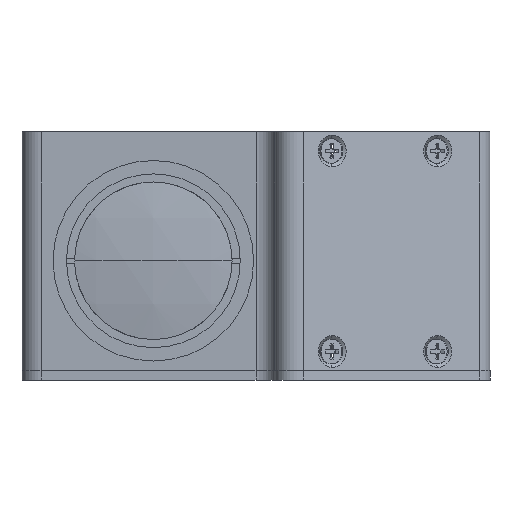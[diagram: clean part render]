
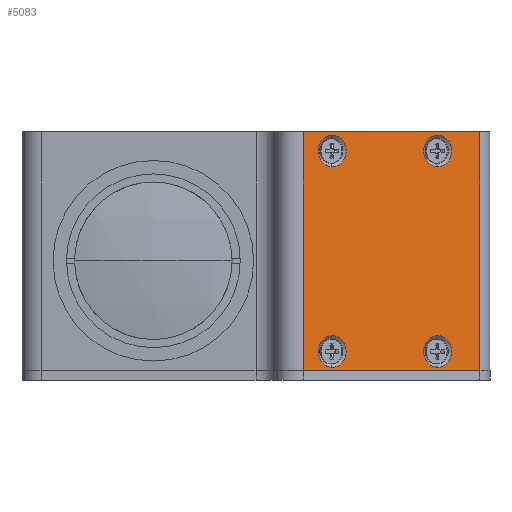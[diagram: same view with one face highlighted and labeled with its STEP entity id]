
A CAD part, left-side view. The second image highlights one B-rep face of the part: STEP entity #5083.
In plain terms, the highlighted planar face has unit normal (-0.883, -0.469, 0).
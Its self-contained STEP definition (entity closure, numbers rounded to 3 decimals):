
#72 = CARTESIAN_POINT ( 'NONE',  ( 47.824, -37.475, 23. ) ) ;
#99 = CIRCLE ( 'NONE', #2950, 3.3 ) ;
#524 = EDGE_LOOP ( 'NONE', ( #925, #4779 ) ) ;
#839 = VERTEX_POINT ( 'NONE', #1708 ) ;
#925 = ORIENTED_EDGE ( 'NONE', *, *, #14183, .F. ) ;
#1018 = VERTEX_POINT ( 'NONE', #8978 ) ;
#1135 = DIRECTION ( 'NONE',  ( -0.883, -0.469, 0. ) ) ;
#1214 = DIRECTION ( 'NONE',  ( 0., 0., 1. ) ) ;
#1537 = ORIENTED_EDGE ( 'NONE', *, *, #13996, .F. ) ;
#1563 = VERTEX_POINT ( 'NONE', #5098 ) ;
#1708 = CARTESIAN_POINT ( 'NONE',  ( 47.824, -37.475, -15.7 ) ) ;
#1750 = VERTEX_POINT ( 'NONE', #13607 ) ;
#1985 = ORIENTED_EDGE ( 'NONE', *, *, #12422, .F. ) ;
#2227 = CARTESIAN_POINT ( 'NONE',  ( 54.469, -49.971, 2. ) ) ;
#2325 = LINE ( 'NONE', #6303, #5057 ) ;
#2521 = ORIENTED_EDGE ( 'NONE', *, *, #12765, .F. ) ;
#2530 = VERTEX_POINT ( 'NONE', #13635 ) ;
#2613 = EDGE_CURVE ( 'NONE', #10507, #1563, #13593, .T. ) ;
#2623 = ORIENTED_EDGE ( 'NONE', *, *, #14076, .F. ) ;
#2661 = CARTESIAN_POINT ( 'NONE',  ( 47.824, -37.475, -19. ) ) ;
#2762 = ORIENTED_EDGE ( 'NONE', *, *, #13066, .F. ) ;
#2802 = VERTEX_POINT ( 'NONE', #7382 ) ;
#2920 = DIRECTION ( 'NONE',  ( -0.883, -0.469, 0. ) ) ;
#2950 = AXIS2_PLACEMENT_3D ( 'NONE', #9944, #2920, #11080 ) ;
#3068 = CARTESIAN_POINT ( 'NONE',  ( 64.256, -68.378, 2. ) ) ;
#3143 = CARTESIAN_POINT ( 'NONE',  ( 47.824, -37.475, 19.7 ) ) ;
#3376 = DIRECTION ( 'NONE',  ( 0., 0., 1. ) ) ;
#3440 = AXIS2_PLACEMENT_3D ( 'NONE', #8140, #1135, #9324 ) ;
#3535 = CIRCLE ( 'NONE', #4717, 3.3 ) ;
#3640 = FACE_BOUND ( 'NONE', #9245, .T. ) ;
#3815 = DIRECTION ( 'NONE',  ( 0., 0., 1. ) ) ;
#3816 = AXIS2_PLACEMENT_3D ( 'NONE', #11205, #4204, #12333 ) ;
#3894 = CIRCLE ( 'NONE', #8300, 3.3 ) ;
#3911 = CARTESIAN_POINT ( 'NONE',  ( 47.824, -37.475, 23. ) ) ;
#4158 = CARTESIAN_POINT ( 'NONE',  ( 47.824, -37.475, -22.3 ) ) ;
#4204 = DIRECTION ( 'NONE',  ( -0.883, -0.469, 0. ) ) ;
#4226 = DIRECTION ( 'NONE',  ( 0., 0., 1. ) ) ;
#4240 = AXIS2_PLACEMENT_3D ( 'NONE', #72, #8235, #1214 ) ;
#4255 = CIRCLE ( 'NONE', #6806, 3.3 ) ;
#4444 = AXIS2_PLACEMENT_3D ( 'NONE', #2227, #10401, #3376 ) ;
#4717 = AXIS2_PLACEMENT_3D ( 'NONE', #2661, #10822, #3815 ) ;
#4779 = ORIENTED_EDGE ( 'NONE', *, *, #2613, .F. ) ;
#4780 = VECTOR ( 'NONE', #4226, 1000. ) ;
#4795 = EDGE_LOOP ( 'NONE', ( #8504, #9034, #2762, #10981 ) ) ;
#4961 = VECTOR ( 'NONE', #8189, 1000. ) ;
#5057 = VECTOR ( 'NONE', #8727, 1000. ) ;
#5083 = ADVANCED_FACE ( 'NONE', ( #3640, #10251, #12519, #9548, #6419 ), #12598, .T. ) ;
#5098 = CARTESIAN_POINT ( 'NONE',  ( 47.824, -37.475, 26.3 ) ) ;
#5112 = DIRECTION ( 'NONE',  ( 0., 0., 1. ) ) ;
#5916 = CARTESIAN_POINT ( 'NONE',  ( 59.561, -59.548, 23. ) ) ;
#5917 = CARTESIAN_POINT ( 'NONE',  ( 67.497, -74.473, 27. ) ) ;
#6020 = CARTESIAN_POINT ( 'NONE',  ( 44.566, -31.348, -23. ) ) ;
#6066 = DIRECTION ( 'NONE',  ( -0.883, -0.469, 0. ) ) ;
#6303 = CARTESIAN_POINT ( 'NONE',  ( 44.566, -31.348, 2. ) ) ;
#6419 = FACE_OUTER_BOUND ( 'NONE', #4795, .T. ) ;
#6450 = CIRCLE ( 'NONE', #3440, 3.3 ) ;
#6806 = AXIS2_PLACEMENT_3D ( 'NONE', #12916, #6066, #14040 ) ;
#7091 = DIRECTION ( 'NONE',  ( -0.469, 0.883, 0. ) ) ;
#7111 = DIRECTION ( 'NONE',  ( 0., 0., 1. ) ) ;
#7382 = CARTESIAN_POINT ( 'NONE',  ( 59.561, -59.548, -15.7 ) ) ;
#8140 = CARTESIAN_POINT ( 'NONE',  ( 59.561, -59.548, -19. ) ) ;
#8189 = DIRECTION ( 'NONE',  ( 0.469, -0.883, 0. ) ) ;
#8235 = DIRECTION ( 'NONE',  ( -0.883, -0.469, 0. ) ) ;
#8274 = CARTESIAN_POINT ( 'NONE',  ( 44.566, -31.348, 27. ) ) ;
#8300 = AXIS2_PLACEMENT_3D ( 'NONE', #3911, #12044, #5112 ) ;
#8504 = ORIENTED_EDGE ( 'NONE', *, *, #13519, .F. ) ;
#8727 = DIRECTION ( 'NONE',  ( 0., 0., -1. ) ) ;
#8858 = AXIS2_PLACEMENT_3D ( 'NONE', #5916, #13900, #7111 ) ;
#8978 = CARTESIAN_POINT ( 'NONE',  ( 59.561, -59.548, 26.3 ) ) ;
#9034 = ORIENTED_EDGE ( 'NONE', *, *, #12849, .T. ) ;
#9245 = EDGE_LOOP ( 'NONE', ( #1537, #2521 ) ) ;
#9324 = DIRECTION ( 'NONE',  ( 0., 0., 1. ) ) ;
#9548 = FACE_BOUND ( 'NONE', #524, .T. ) ;
#9944 = CARTESIAN_POINT ( 'NONE',  ( 59.561, -59.548, 23. ) ) ;
#10102 = EDGE_LOOP ( 'NONE', ( #2623, #12785 ) ) ;
#10251 = FACE_BOUND ( 'NONE', #10102, .T. ) ;
#10401 = DIRECTION ( 'NONE',  ( -0.883, -0.469, 0. ) ) ;
#10507 = VERTEX_POINT ( 'NONE', #3143 ) ;
#10659 = EDGE_LOOP ( 'NONE', ( #13481, #1985 ) ) ;
#10822 = DIRECTION ( 'NONE',  ( -0.883, -0.469, 0. ) ) ;
#10966 = LINE ( 'NONE', #3068, #4780 ) ;
#10981 = ORIENTED_EDGE ( 'NONE', *, *, #13214, .T. ) ;
#11080 = DIRECTION ( 'NONE',  ( 0., 0., 1. ) ) ;
#11205 = CARTESIAN_POINT ( 'NONE',  ( 47.824, -37.475, -19. ) ) ;
#11694 = CIRCLE ( 'NONE', #3816, 3.3 ) ;
#12044 = DIRECTION ( 'NONE',  ( -0.883, -0.469, 0. ) ) ;
#12247 = VERTEX_POINT ( 'NONE', #14121 ) ;
#12283 = VECTOR ( 'NONE', #7091, 1000. ) ;
#12333 = DIRECTION ( 'NONE',  ( 0., 0., 1. ) ) ;
#12420 = VERTEX_POINT ( 'NONE', #4158 ) ;
#12422 = EDGE_CURVE ( 'NONE', #12420, #839, #11694, .T. ) ;
#12519 = FACE_BOUND ( 'NONE', #10659, .T. ) ;
#12575 = EDGE_CURVE ( 'NONE', #13980, #2802, #6450, .T. ) ;
#12598 = PLANE ( 'NONE',  #4444 ) ;
#12626 = LINE ( 'NONE', #13880, #12283 ) ;
#12722 = CARTESIAN_POINT ( 'NONE',  ( 59.561, -59.548, -22.3 ) ) ;
#12765 = EDGE_CURVE ( 'NONE', #12247, #1018, #99, .T. ) ;
#12785 = ORIENTED_EDGE ( 'NONE', *, *, #12575, .F. ) ;
#12849 = EDGE_CURVE ( 'NONE', #2530, #1750, #10966, .T. ) ;
#12916 = CARTESIAN_POINT ( 'NONE',  ( 59.561, -59.548, -19. ) ) ;
#13066 = EDGE_CURVE ( 'NONE', #14502, #1750, #14096, .T. ) ;
#13100 = VERTEX_POINT ( 'NONE', #6020 ) ;
#13214 = EDGE_CURVE ( 'NONE', #14502, #13100, #2325, .T. ) ;
#13481 = ORIENTED_EDGE ( 'NONE', *, *, #14134, .F. ) ;
#13519 = EDGE_CURVE ( 'NONE', #2530, #13100, #12626, .T. ) ;
#13593 = CIRCLE ( 'NONE', #4240, 3.3 ) ;
#13607 = CARTESIAN_POINT ( 'NONE',  ( 64.256, -68.378, 27. ) ) ;
#13635 = CARTESIAN_POINT ( 'NONE',  ( 64.256, -68.378, -23. ) ) ;
#13880 = CARTESIAN_POINT ( 'NONE',  ( 67.497, -74.473, -23. ) ) ;
#13900 = DIRECTION ( 'NONE',  ( -0.883, -0.469, 0. ) ) ;
#13980 = VERTEX_POINT ( 'NONE', #12722 ) ;
#13996 = EDGE_CURVE ( 'NONE', #1018, #12247, #14162, .T. ) ;
#14040 = DIRECTION ( 'NONE',  ( 0., 0., 1. ) ) ;
#14076 = EDGE_CURVE ( 'NONE', #2802, #13980, #4255, .T. ) ;
#14096 = LINE ( 'NONE', #5917, #4961 ) ;
#14121 = CARTESIAN_POINT ( 'NONE',  ( 59.561, -59.548, 19.7 ) ) ;
#14134 = EDGE_CURVE ( 'NONE', #839, #12420, #3535, .T. ) ;
#14162 = CIRCLE ( 'NONE', #8858, 3.3 ) ;
#14183 = EDGE_CURVE ( 'NONE', #1563, #10507, #3894, .T. ) ;
#14502 = VERTEX_POINT ( 'NONE', #8274 ) ;
